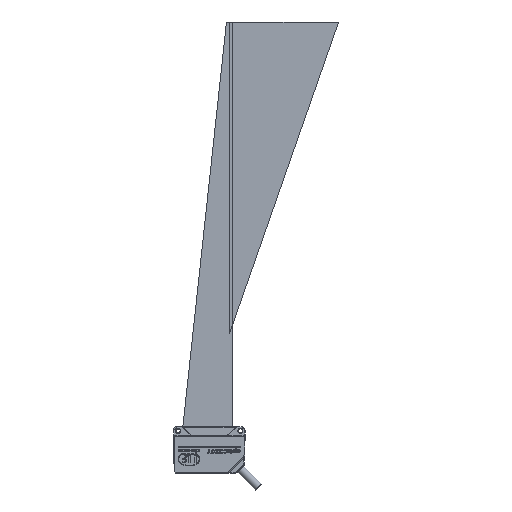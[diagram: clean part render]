
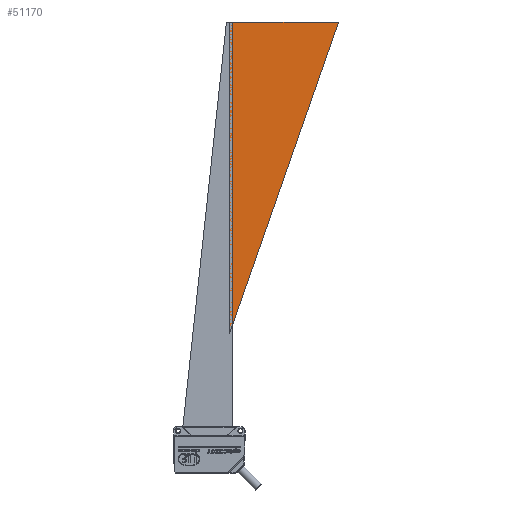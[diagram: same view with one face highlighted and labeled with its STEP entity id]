
A CAD part, front view. The second image highlights one B-rep face of the part: STEP entity #51170.
In plain terms, the highlighted planar face has unit normal (0, -1, 0).
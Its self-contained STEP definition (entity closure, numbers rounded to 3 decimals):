
#564 = DIRECTION ( 'NONE',  ( 0., 0., 1. ) ) ;
#4544 = VECTOR ( 'NONE', #51794, 1000. ) ;
#8229 = DIRECTION ( 'NONE',  ( 1., 0., 0. ) ) ;
#9467 = EDGE_CURVE ( 'NONE', #13567, #16609, #75490, .T. ) ;
#9749 = CARTESIAN_POINT ( 'NONE',  ( 13., -1.5, 65. ) ) ;
#10217 = VECTOR ( 'NONE', #564, 1000. ) ;
#10712 = DIRECTION ( 'NONE',  ( 1., 0., 0. ) ) ;
#11672 = EDGE_CURVE ( 'NONE', #80360, #13567, #48167, .T. ) ;
#12403 = EDGE_CURVE ( 'NONE', #16609, #80360, #45103, .T. ) ;
#13567 = VERTEX_POINT ( 'NONE', #70338 ) ;
#16609 = VERTEX_POINT ( 'NONE', #23362 ) ;
#19876 = ORIENTED_EDGE ( 'NONE', *, *, #11672, .F. ) ;
#23362 = CARTESIAN_POINT ( 'NONE',  ( 83., -1.5, 265. ) ) ;
#29006 = ORIENTED_EDGE ( 'NONE', *, *, #12403, .F. ) ;
#34920 = CARTESIAN_POINT ( 'NONE',  ( 13., -1.5, 265. ) ) ;
#35115 = AXIS2_PLACEMENT_3D ( 'NONE', #37833, #66335, #10712 ) ;
#37071 = VECTOR ( 'NONE', #8229, 1000. ) ;
#37833 = CARTESIAN_POINT ( 'NONE',  ( 0., -1.5, 0. ) ) ;
#45103 = LINE ( 'NONE', #72301, #4544 ) ;
#45403 = PLANE ( 'NONE',  #35115 ) ;
#48167 = LINE ( 'NONE', #75818, #10217 ) ;
#50526 = EDGE_LOOP ( 'NONE', ( #19876, #29006, #51958 ) ) ;
#51170 = ADVANCED_FACE ( 'NONE', ( #65002 ), #45403, .F. ) ;
#51794 = DIRECTION ( 'NONE',  ( -0.33, 0., -0.944 ) ) ;
#51958 = ORIENTED_EDGE ( 'NONE', *, *, #9467, .F. ) ;
#65002 = FACE_OUTER_BOUND ( 'NONE', #50526, .T. ) ;
#66335 = DIRECTION ( 'NONE',  ( 0., 1., 0. ) ) ;
#70338 = CARTESIAN_POINT ( 'NONE',  ( 13., -1.5, 265. ) ) ;
#72301 = CARTESIAN_POINT ( 'NONE',  ( 83., -1.5, 265. ) ) ;
#75490 = LINE ( 'NONE', #34920, #37071 ) ;
#75818 = CARTESIAN_POINT ( 'NONE',  ( 13., -1.5, 65. ) ) ;
#80360 = VERTEX_POINT ( 'NONE', #9749 ) ;
